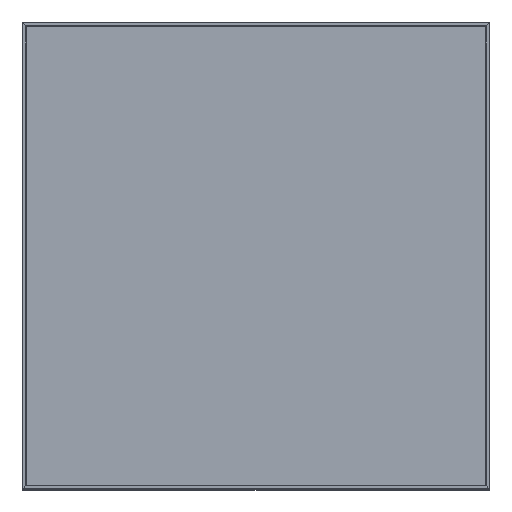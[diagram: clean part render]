
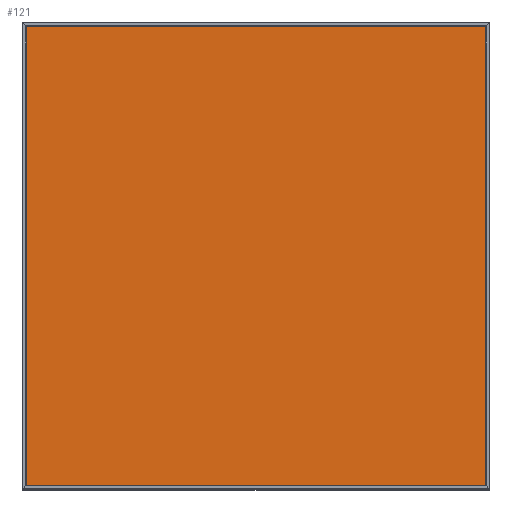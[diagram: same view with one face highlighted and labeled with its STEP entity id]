
A CAD part, top view. The second image highlights one B-rep face of the part: STEP entity #121.
In plain terms, the highlighted planar face has unit normal (0, 0, 1).
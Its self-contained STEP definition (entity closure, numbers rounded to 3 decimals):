
#121=ADVANCED_FACE('',(#229),#1509,.T.);
#229=FACE_OUTER_BOUND('',#337,.T.);
#337=EDGE_LOOP('',(#732,#733,#734,#735));
#732=ORIENTED_EDGE('',*,*,#1008,.T.);
#733=ORIENTED_EDGE('',*,*,#1010,.T.);
#734=ORIENTED_EDGE('',*,*,#1011,.T.);
#735=ORIENTED_EDGE('',*,*,#1009,.T.);
#1008=EDGE_CURVE('',#1396,#1397,#1132,.T.);
#1009=EDGE_CURVE('',#1398,#1396,#1133,.T.);
#1010=EDGE_CURVE('',#1397,#1399,#1134,.T.);
#1011=EDGE_CURVE('',#1399,#1398,#1135,.T.);
#1132=B_SPLINE_CURVE_WITH_KNOTS('',1,(#2999,#3000),.UNSPECIFIED.,.F.,.F.,
(2,2),(0.25,589.75),.UNSPECIFIED.);
#1133=B_SPLINE_CURVE_WITH_KNOTS('',1,(#3001,#3002),.UNSPECIFIED.,.F.,.F.,
(2,2),(0.25,589.75),.UNSPECIFIED.);
#1134=B_SPLINE_CURVE_WITH_KNOTS('',1,(#3003,#3004),.UNSPECIFIED.,.F.,.F.,
(2,2),(0.25,589.75),.UNSPECIFIED.);
#1135=B_SPLINE_CURVE_WITH_KNOTS('',1,(#3005,#3006),.UNSPECIFIED.,.F.,.F.,
(2,2),(0.25,589.75),.UNSPECIFIED.);
#1396=VERTEX_POINT('',#2963);
#1397=VERTEX_POINT('',#2964);
#1398=VERTEX_POINT('',#2965);
#1399=VERTEX_POINT('',#2966);
#1509=PLANE('',#1565);
#1565=AXIS2_PLACEMENT_3D('',#2838,#1605,$);
#1605=DIRECTION('',(0.,0.,1.));
#2838=CARTESIAN_POINT('',(-354.012,-354.012,320.));
#2963=CARTESIAN_POINT('',(294.75,294.75,320.));
#2964=CARTESIAN_POINT('',(-294.75,294.75,320.));
#2965=CARTESIAN_POINT('',(294.75,-294.75,320.));
#2966=CARTESIAN_POINT('',(-294.75,-294.75,320.));
#2999=CARTESIAN_POINT('',(294.75,294.75,320.));
#3000=CARTESIAN_POINT('',(-294.75,294.75,320.));
#3001=CARTESIAN_POINT('',(294.75,-294.75,320.));
#3002=CARTESIAN_POINT('',(294.75,294.75,320.));
#3003=CARTESIAN_POINT('',(-294.75,294.75,320.));
#3004=CARTESIAN_POINT('',(-294.75,-294.75,320.));
#3005=CARTESIAN_POINT('',(-294.75,-294.75,320.));
#3006=CARTESIAN_POINT('',(294.75,-294.75,320.));
